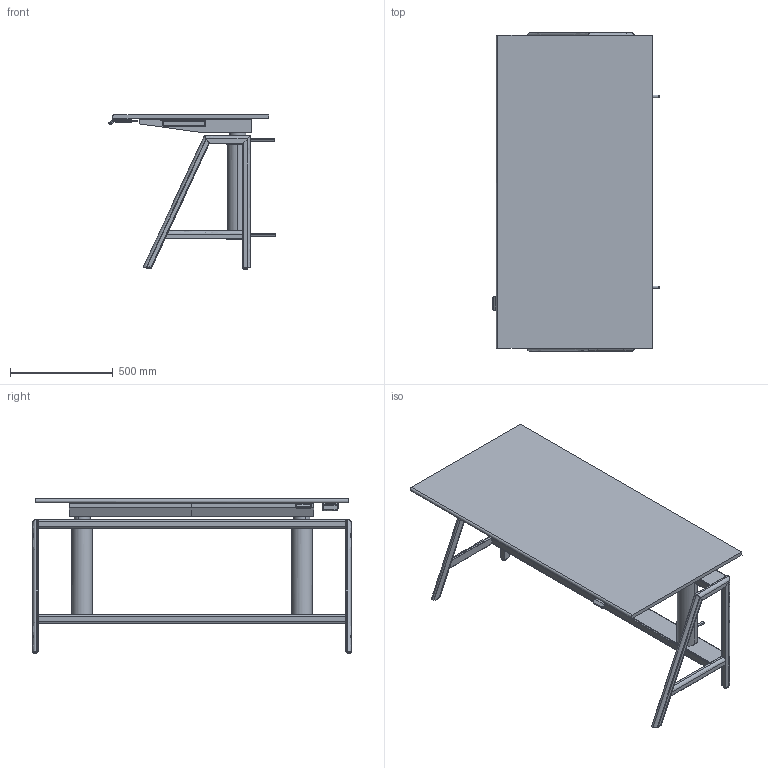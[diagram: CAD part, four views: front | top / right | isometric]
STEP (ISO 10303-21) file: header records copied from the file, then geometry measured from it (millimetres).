
FILE_DESCRIPTION(/* description */ (''),/* implementation_level */ '2;1');
FILE_NAME(/* name */ 'IOCPRO~3',/* time_stamp */ '2023-06-05T11:53:45+02:00',/* author */ (''),/* organization */ (''),/* preprocessor_version */ 'ST-DEVELOPER v16.5',/* originating_system */ '',/* authorisation */ '');
FILE_SCHEMA (('AUTOMOTIVE_DESIGN'));
Products named in the file (1): Document
Bounding box: 808.99 x 1551 x 749.94 mm (x, y, z)
Volume: 69202205.3 mm3; surface area: 7178524.6 mm2
Topology: 28 solids, 35 shells, 2390 faces, 6120 edges, 3807 vertices
Faces by surface type: bspline 1590, plane 800
Entity records: 145271 total; most frequent: CARTESIAN_POINT 109520, ORIENTED_EDGE 12062, EDGE_CURVE 6072, VERTEX_POINT 3807, B_SPLINE_CURVE_WITH_KNOTS 3592, EDGE_LOOP 2500, ADVANCED_FACE 2390, FACE_OUTER_BOUND 2390
